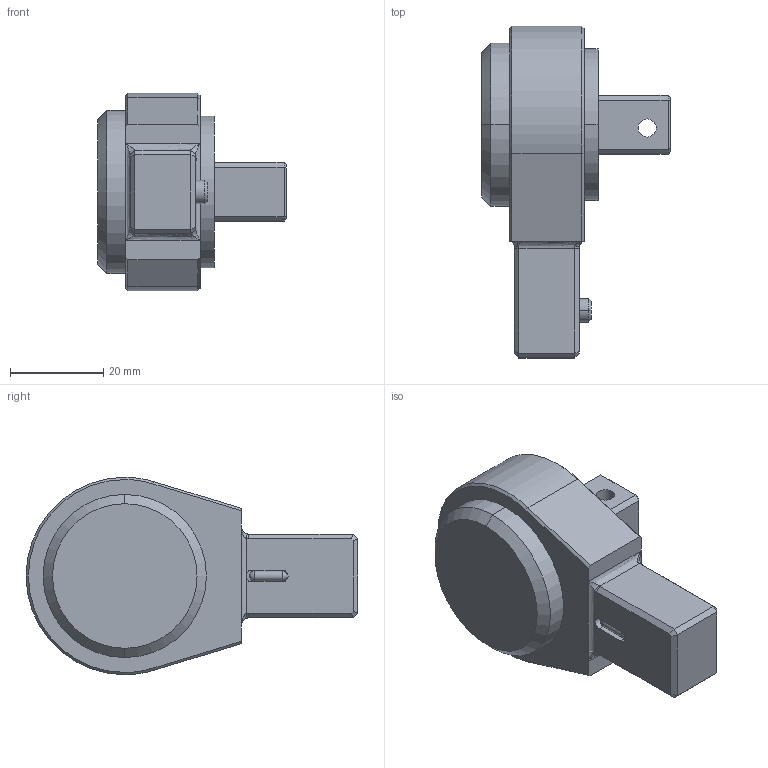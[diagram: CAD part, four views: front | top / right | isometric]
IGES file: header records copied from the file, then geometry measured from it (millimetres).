
Start section:  PTC IGES file: 6153972000.igs
Global section: file name: 6153972000.igs; native system: Creo Parametric by PTC Inc.; preprocessor: 2019080; author: greextsd; organization: Unknown; date: 20191206.180356; units: millimetre
Bounding box: 40.5 x 71.18 x 42.35 mm (x, y, z)
Surface area: 8846.5 mm2 (no closed solid volume)
Topology: 0 solids, 0 shells, 90 faces, 416 edges, 411 vertices
Faces by surface type: bspline 49, revolution 41
